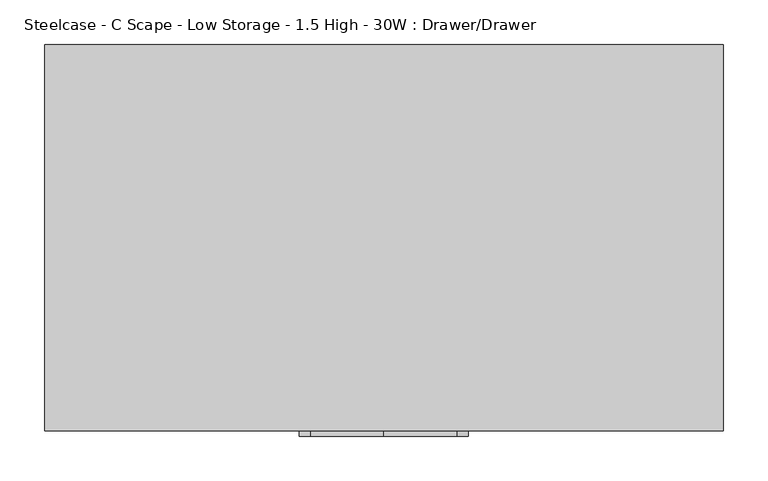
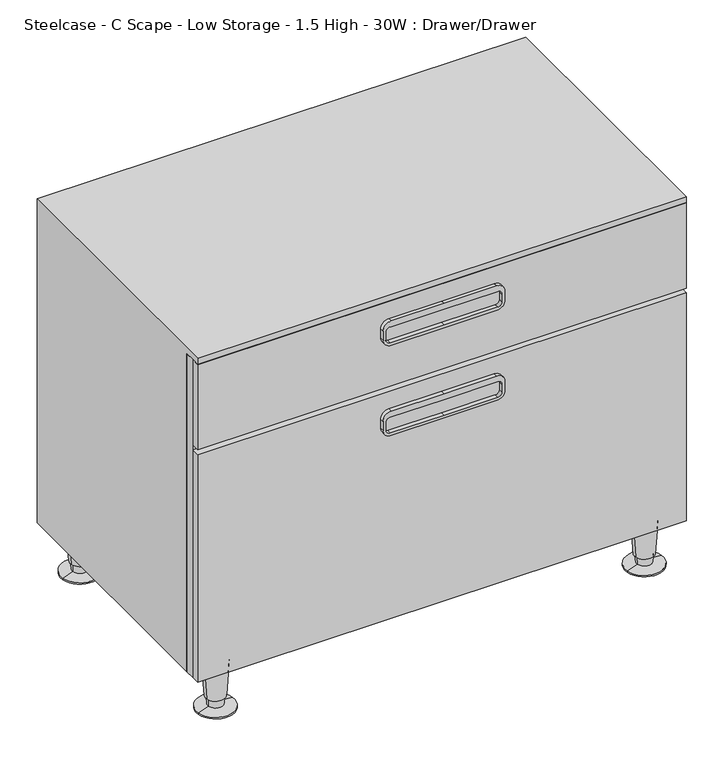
"""IFC4 building model written with IfcOpenShell, lengths in millimetres: furniture geometry, Steelcase - C Scape - Low Storage - 1.5 High - 30W : Drawer/Drawer."""

from ifc_helpers import new_model, si_unit, point, frame, frame_2d, origin, place, context, project, spatial, polyline, circle_curve, trimmed, segment, composite_curve, outline, extrude, faceted_brep, source, transform, mapped, element, save
from ifc_brep_helpers import plane_surface, cylinder_surface, revolved_surface, advanced_brep


def steelcase_c_scape_low_storage_1_5_high_30w_drawer_drawer_79f90267(model_context):
    return source(origin(), model_context, "Body", "SolidModel", [
        extrude(outline(polyline([(599.4499291, 0.0), (76.2, 0.0), (76.2, 760.73), (599.4499291, 760.73), (599.4499291, 320.0585382), (599.4499291, 0.0)]), holes=[polyline([(458.7875121, 21.3382324), (582.9399291, 21.3382324), (582.9399291, 738.7617285), (458.7875121, 738.7617285), (458.7875121, 21.3382324)]), polyline([(436.841904, 21.3256814), (436.841904, 738.7617285), (92.7100024, 738.7617285), (92.7100024, 21.3256814), (436.841904, 21.3256814)])]), frame((0.0, -419.3540543, 0.0), z_axis=(0.0, 1.0, 0.0), x_axis=(0.0, 0.0, 1.0)), (0.0, 0.0, 1.0), 14.9860039),
        extrude(outline(composite_curve([segment(trimmed(circle_curve(frame_2d((558.1749291, 297.8147442)), 12.7), [point((570.8749291, 297.8147442))], [point((558.1749291, 285.1147442))], False, "CARTESIAN"), True, "CONTINUOUS"), segment(polyline([(558.1749291, 285.1147442), (543.5699582, 285.1147442)]), True, "CONTINUOUS"), segment(trimmed(circle_curve(frame_2d((543.5699582, 297.8147442)), 12.7), [point((543.5699582, 285.1147442))], [point((530.8699582, 297.8147442))], False, "CARTESIAN"), True, "CONTINUOUS"), segment(polyline([(530.8699582, 297.8147442), (530.8699582, 380.0475), (530.8699582, 462.2802558)]), True, "CONTINUOUS"), segment(trimmed(circle_curve(frame_2d((543.5699582, 462.2802558)), 12.7), [point((530.8699582, 462.2802558))], [point((543.5699582, 474.9802558))], False, "CARTESIAN"), True, "CONTINUOUS"), segment(polyline([(543.5699582, 474.9802558), (558.1749291, 474.9802558)]), True, "CONTINUOUS"), segment(trimmed(circle_curve(frame_2d((558.1749291, 462.2802558)), 12.7), [point((558.1749291, 474.9802558))], [point((570.8749291, 462.2802558))], False, "CARTESIAN"), True, "CONTINUOUS"), segment(polyline([(570.8749291, 462.2802558), (570.8749291, 380.0475), (570.8749291, 297.8147442)]), True, "CONTINUOUS")], self_intersect=False), holes=[composite_curve([segment(trimmed(circle_curve(frame_2d((554.7459476, 296.2923565)), 6.35), [point((554.7459476, 289.9423565))], [point((561.0959476, 296.2923565))], True, "CARTESIAN"), True, "CONTINUOUS"), segment(polyline([(561.0959476, 296.2923565), (561.0959476, 380.0475), (561.0959476, 463.8026435)]), True, "CONTINUOUS"), segment(trimmed(circle_curve(frame_2d((554.7459476, 463.8026435)), 6.35), [point((561.0959476, 463.8026435))], [point((554.7459476, 470.1526435))], True, "CARTESIAN"), True, "CONTINUOUS"), segment(polyline([(554.7459476, 470.1526435), (542.0459354, 470.1526435)]), True, "CONTINUOUS"), segment(trimmed(circle_curve(frame_2d((542.0459354, 463.8026435)), 6.35), [point((542.0459354, 470.1526435))], [point((535.6959354, 463.8026435))], True, "CARTESIAN"), True, "CONTINUOUS"), segment(polyline([(535.6959354, 463.8026435), (535.6959354, 380.0475), (535.6959354, 296.2923565)]), True, "CONTINUOUS"), segment(trimmed(circle_curve(frame_2d((542.0459354, 296.2923565)), 6.35), [point((535.6959354, 296.2923565))], [point((542.0459354, 289.9423565))], True, "CARTESIAN"), True, "CONTINUOUS"), segment(polyline([(542.0459354, 289.9423565), (554.7459476, 289.9423565)]), True, "CONTINUOUS")], self_intersect=False)]), frame((0.0, -439.42, 0.0), z_axis=(0.0, 1.0, 0.0), x_axis=(0.0, 0.0, 1.0)), (0.0, 0.0, 1.0), 6.35),
        extrude(outline(composite_curve([segment(trimmed(circle_curve(frame_2d((409.5749879, 297.8147442)), 12.7), [point((422.2749879, 297.8147442))], [point((409.5749879, 285.1147442))], False, "CARTESIAN"), True, "CONTINUOUS"), segment(polyline([(409.5749879, 285.1147442), (394.970017, 285.1147442)]), True, "CONTINUOUS"), segment(trimmed(circle_curve(frame_2d((394.970017, 297.8147442)), 12.7), [point((394.970017, 285.1147442))], [point((382.270017, 297.8147442))], False, "CARTESIAN"), True, "CONTINUOUS"), segment(polyline([(382.270017, 297.8147442), (382.270017, 380.0475), (382.270017, 462.2802558)]), True, "CONTINUOUS"), segment(trimmed(circle_curve(frame_2d((394.970017, 462.2802558)), 12.7), [point((382.270017, 462.2802558))], [point((394.970017, 474.9802558))], False, "CARTESIAN"), True, "CONTINUOUS"), segment(polyline([(394.970017, 474.9802558), (409.5749879, 474.9802558)]), True, "CONTINUOUS"), segment(trimmed(circle_curve(frame_2d((409.5749879, 462.2802558)), 12.7), [point((409.5749879, 474.9802558))], [point((422.2749879, 462.2802558))], False, "CARTESIAN"), True, "CONTINUOUS"), segment(polyline([(422.2749879, 462.2802558), (422.2749879, 380.0475), (422.2749879, 297.8147442)]), True, "CONTINUOUS")], self_intersect=False), holes=[composite_curve([segment(trimmed(circle_curve(frame_2d((406.1460063, 296.2923565)), 6.35), [point((406.1460063, 289.9423565))], [point((412.4960063, 296.2923565))], True, "CARTESIAN"), True, "CONTINUOUS"), segment(polyline([(412.4960063, 296.2923565), (412.4960063, 380.0475), (412.4960063, 463.8026435)]), True, "CONTINUOUS"), segment(trimmed(circle_curve(frame_2d((406.1460063, 463.8026435)), 6.35), [point((412.4960063, 463.8026435))], [point((406.1460063, 470.1526435))], True, "CARTESIAN"), True, "CONTINUOUS"), segment(polyline([(406.1460063, 470.1526435), (393.4459942, 470.1526435)]), True, "CONTINUOUS"), segment(trimmed(circle_curve(frame_2d((393.4459942, 463.8026435)), 6.35), [point((393.4459942, 470.1526435))], [point((387.0959942, 463.8026435))], True, "CARTESIAN"), True, "CONTINUOUS"), segment(polyline([(387.0959942, 463.8026435), (387.0959942, 380.0475), (387.0959942, 296.2923565)]), True, "CONTINUOUS"), segment(trimmed(circle_curve(frame_2d((393.4459942, 296.2923565)), 6.35), [point((387.0959942, 296.2923565))], [point((393.4459942, 289.9423565))], True, "CARTESIAN"), True, "CONTINUOUS"), segment(polyline([(393.4459942, 289.9423565), (406.1460063, 289.9423565)]), True, "CONTINUOUS")], self_intersect=False)]), frame((0.0, -439.42, 0.0), z_axis=(0.0, 1.0, 0.0), x_axis=(0.0, 0.0, 1.0)), (0.0, 0.0, 1.0), 6.35),
        advanced_brep(
        [(65.5422821, -397.1702762, 76.2), (27.8805432, -402.9325174, 76.2), (46.7114126, -400.0513968, 76.2), (61.5919341, -397.774679, 19.05), (31.8308912, -402.3281146, 19.05), (59.1623471, -398.1464055, 19.05), (34.2604781, -401.9563882, 19.05), (58.4735776, -398.2517871, 5.7545598), (34.9492476, -401.8510065, 5.7545598), (75.8224611, -395.5974102, 2.5119506), (17.6003641, -404.5053834, 2.5119506), (75.8224611, -395.5974102, 0.0), (17.6003641, -404.5053834, 0.0), (46.7114126, -400.0513968, 0.0)],
        [
            (0, 1, circle_curve(frame((46.7114126, -400.0513968, 76.2), z_axis=(0.0, 0.0, 1.0), x_axis=(0.0, -1.0, 0.0)), 19.05)),
            (1, 2),
            (2, 0),
            (1, 0, circle_curve(frame((46.7114126, -400.0513968, 76.2), z_axis=(0.0, 0.0, 1.0), x_axis=(0.0, -1.0, 0.0)), 19.05)),
            (3, 4, circle_curve(frame((46.7114126, -400.0513968, 19.05), z_axis=(0.0, 0.0, 1.0), x_axis=(0.0, -1.0, 0.0)), 15.0536827)),
            (4, 1),
            (0, 3),
            (4, 3, circle_curve(frame((46.7114126, -400.0513968, 19.05), z_axis=(0.0, 0.0, 1.0), x_axis=(0.0, -1.0, 0.0)), 15.0536827)),
            (5, 6, circle_curve(frame((46.7114126, -400.0513968, 19.05), z_axis=(0.0, 0.0, 1.0), x_axis=(0.0, -1.0, 0.0)), 12.5958232)),
            (6, 4),
            (3, 5),
            (6, 5, circle_curve(frame((46.7114126, -400.0513968, 19.05), z_axis=(0.0, 0.0, 1.0), x_axis=(0.0, -1.0, 0.0)), 12.5958232)),
            (7, 8, circle_curve(frame((46.7114126, -400.0513968, 5.7545598), z_axis=(0.0, 0.0, 1.0), x_axis=(0.0, -1.0, 0.0)), 11.8990387)),
            (8, 6),
            (5, 7),
            (8, 7, circle_curve(frame((46.7114126, -400.0513968, 5.7545598), z_axis=(0.0, 0.0, 1.0), x_axis=(0.0, -1.0, 0.0)), 11.8990387)),
            (9, 10, circle_curve(frame((46.7114126, -400.0513968, 2.5119506), z_axis=(0.0, 0.0, 1.0), x_axis=(0.0, -1.0, 0.0)), 29.4498071)),
            (10, 8),
            (7, 9),
            (10, 9, circle_curve(frame((46.7114126, -400.0513968, 2.5119506), z_axis=(0.0, 0.0, 1.0), x_axis=(0.0, -1.0, 0.0)), 29.4498071)),
            (11, 12, circle_curve(frame((46.7114126, -400.0513968, 0.0), z_axis=(0.0, 0.0, 1.0), x_axis=(0.0, -1.0, 0.0)), 29.4498071)),
            (12, 10),
            (9, 11),
            (12, 11, circle_curve(frame((46.7114126, -400.0513968, 0.0), z_axis=(0.0, 0.0, 1.0), x_axis=(0.0, -1.0, 0.0)), 29.4498071)),
            (13, 12),
            (11, 13),
        ],
        [
            plane_surface(frame((46.7114126, -400.0513968, 76.2), z_axis=(0.0, 0.0, 1.0), x_axis=(0.0, -1.0, 0.0))),
            revolved_surface(polyline([(46.7114126, -419.1013968, 76.2), (46.7114126, -415.1050795, 19.05)]), (46.7114126, -400.0513968, 25.4), (0.0, 0.0, -1.0)),
            plane_surface(frame((46.7114126, -400.0513968, 19.05), z_axis=(0.0, 0.0, -1.0), x_axis=(0.0, -1.0, 0.0))),
            revolved_surface(polyline([(46.7114126, -412.64722, 19.05), (46.7114126, -411.9504355, 5.7545598)]), (46.7114126, -400.0513968, 25.4), (0.0, 0.0, -1.0)),
            revolved_surface(polyline([(46.7114126, -411.9504355, 5.7545598), (46.7114126, -429.5012039, 2.5119506)]), (46.7114126, -400.0513968, 25.4), (0.0, 0.0, -1.0)),
            cylinder_surface(frame((46.7114126, -400.0513968, 25.4), z_axis=(0.0, 0.0, -1.0), x_axis=(0.0, -1.0, 0.0)), 29.4498071),
            plane_surface(frame((46.7114126, -400.0513968, 0.0), z_axis=(0.0, 0.0, -1.0), x_axis=(0.0, -1.0, 0.0))),
        ],
        [
            (0, [[1, 2, 3]]),
            (0, [[4, -3, -2]]),
            (1, [[5, 6, -1, 7]]),
            (1, [[8, -7, -4, -6]]),
            (2, [[9, 10, -5, 11]]),
            (2, [[12, -11, -8, -10]]),
            (3, [[13, 14, -9, 15]]),
            (3, [[16, -15, -12, -14]]),
            (4, [[17, 18, -13, 19]]),
            (4, [[20, -19, -16, -18]]),
            (5, [[21, 22, -17, 23]]),
            (5, [[24, -23, -20, -22]]),
            (6, [[25, -21, 26]]),
            (6, [[-26, -24, -25]]),
        ],
    ),
        advanced_brep(
        [(733.4598695, -397.1702762, 76.2), (695.7981305, -402.9325174, 76.2), (714.629, -400.0513968, 76.2), (729.5095214, -397.774679, 19.05), (699.7484786, -402.3281146, 19.05), (727.0799345, -398.1464055, 19.05), (702.1780655, -401.9563882, 19.05), (726.391165, -398.2517871, 5.7545598), (702.866835, -401.8510065, 5.7545598), (743.7400485, -395.5974102, 2.5119506), (685.5179515, -404.5053834, 2.5119506), (743.7400485, -395.5974102, 0.0), (685.5179515, -404.5053834, 0.0), (714.629, -400.0513968, 0.0)],
        [
            (0, 1, circle_curve(frame((714.629, -400.0513968, 76.2), z_axis=(0.0, 0.0, 1.0), x_axis=(0.0, -1.0, 0.0)), 19.05)),
            (1, 2),
            (2, 0),
            (1, 0, circle_curve(frame((714.629, -400.0513968, 76.2), z_axis=(0.0, 0.0, 1.0), x_axis=(0.0, -1.0, 0.0)), 19.05)),
            (3, 4, circle_curve(frame((714.629, -400.0513968, 19.05), z_axis=(0.0, 0.0, 1.0), x_axis=(0.0, -1.0, 0.0)), 15.0536827)),
            (4, 1),
            (0, 3),
            (4, 3, circle_curve(frame((714.629, -400.0513968, 19.05), z_axis=(0.0, 0.0, 1.0), x_axis=(0.0, -1.0, 0.0)), 15.0536827)),
            (5, 6, circle_curve(frame((714.629, -400.0513968, 19.05), z_axis=(0.0, 0.0, 1.0), x_axis=(0.0, -1.0, 0.0)), 12.5958232)),
            (6, 4),
            (3, 5),
            (6, 5, circle_curve(frame((714.629, -400.0513968, 19.05), z_axis=(0.0, 0.0, 1.0), x_axis=(0.0, -1.0, 0.0)), 12.5958232)),
            (7, 8, circle_curve(frame((714.629, -400.0513968, 5.7545598), z_axis=(0.0, 0.0, 1.0), x_axis=(0.0, -1.0, 0.0)), 11.8990387)),
            (8, 6),
            (5, 7),
            (8, 7, circle_curve(frame((714.629, -400.0513968, 5.7545598), z_axis=(0.0, 0.0, 1.0), x_axis=(0.0, -1.0, 0.0)), 11.8990387)),
            (9, 10, circle_curve(frame((714.629, -400.0513968, 2.5119506), z_axis=(0.0, 0.0, 1.0), x_axis=(0.0, -1.0, 0.0)), 29.4498071)),
            (10, 8),
            (7, 9),
            (10, 9, circle_curve(frame((714.629, -400.0513968, 2.5119506), z_axis=(0.0, 0.0, 1.0), x_axis=(0.0, -1.0, 0.0)), 29.4498071)),
            (11, 12, circle_curve(frame((714.629, -400.0513968, 0.0), z_axis=(0.0, 0.0, 1.0), x_axis=(0.0, -1.0, 0.0)), 29.4498071)),
            (12, 10),
            (9, 11),
            (12, 11, circle_curve(frame((714.629, -400.0513968, 0.0), z_axis=(0.0, 0.0, 1.0), x_axis=(0.0, -1.0, 0.0)), 29.4498071)),
            (13, 12),
            (11, 13),
        ],
        [
            plane_surface(frame((714.629, -400.0513968, 76.2), z_axis=(0.0, 0.0, 1.0), x_axis=(0.0, -1.0, 0.0))),
            revolved_surface(polyline([(714.629, -419.1013968, 76.2), (714.629, -415.1050795, 19.05)]), (714.629, -400.0513968, 25.4), (0.0, 0.0, -1.0)),
            plane_surface(frame((714.629, -400.0513968, 19.05), z_axis=(0.0, 0.0, -1.0), x_axis=(0.0, -1.0, 0.0))),
            revolved_surface(polyline([(714.629, -412.64722, 19.05), (714.629, -411.9504355, 5.7545598)]), (714.629, -400.0513968, 25.4), (0.0, 0.0, -1.0)),
            revolved_surface(polyline([(714.629, -411.9504355, 5.7545598), (714.629, -429.5012039, 2.5119506)]), (714.629, -400.0513968, 25.4), (0.0, 0.0, -1.0)),
            cylinder_surface(frame((714.629, -400.0513968, 25.4), z_axis=(0.0, 0.0, -1.0), x_axis=(0.0, -1.0, 0.0)), 29.4498071),
            plane_surface(frame((714.629, -400.0513968, 0.0), z_axis=(0.0, 0.0, -1.0), x_axis=(0.0, -1.0, 0.0))),
        ],
        [
            (0, [[1, 2, 3]]),
            (0, [[4, -3, -2]]),
            (1, [[5, 6, -1, 7]]),
            (1, [[8, -7, -4, -6]]),
            (2, [[9, 10, -5, 11]]),
            (2, [[12, -11, -8, -10]]),
            (3, [[13, 14, -9, 15]]),
            (3, [[16, -15, -12, -14]]),
            (4, [[17, 18, -13, 19]]),
            (4, [[20, -19, -16, -18]]),
            (5, [[21, 22, -17, 23]]),
            (5, [[24, -23, -20, -22]]),
            (6, [[25, -21, 26]]),
            (6, [[-26, -24, -25]]),
        ],
    ),
        advanced_brep(
        [(733.4598695, -31.5218435, 76.2), (695.7981305, -37.2840847, 76.2), (714.629, -34.4029641, 76.2), (729.5095214, -32.1262463, 19.05), (699.7484786, -36.6796819, 19.05), (727.0799345, -32.4979728, 19.05), (702.1780655, -36.3079555, 19.05), (726.391165, -32.6033544, 5.7545598), (702.866835, -36.2025738, 5.7545598), (743.7400485, -29.9489775, 2.5119506), (685.5179515, -38.8569507, 2.5119506), (743.7400485, -29.9489775, 0.0), (685.5179515, -38.8569507, 0.0), (714.629, -34.4029641, 0.0)],
        [
            (0, 1, circle_curve(frame((714.629, -34.4029641, 76.2), z_axis=(0.0, 0.0, 1.0), x_axis=(0.0, -1.0, 0.0)), 19.05)),
            (1, 2),
            (2, 0),
            (1, 0, circle_curve(frame((714.629, -34.4029641, 76.2), z_axis=(0.0, 0.0, 1.0), x_axis=(0.0, -1.0, 0.0)), 19.05)),
            (3, 4, circle_curve(frame((714.629, -34.4029641, 19.05), z_axis=(0.0, 0.0, 1.0), x_axis=(0.0, -1.0, 0.0)), 15.0536827)),
            (4, 1),
            (0, 3),
            (4, 3, circle_curve(frame((714.629, -34.4029641, 19.05), z_axis=(0.0, 0.0, 1.0), x_axis=(0.0, -1.0, 0.0)), 15.0536827)),
            (5, 6, circle_curve(frame((714.629, -34.4029641, 19.05), z_axis=(0.0, 0.0, 1.0), x_axis=(0.0, -1.0, 0.0)), 12.5958232)),
            (6, 4),
            (3, 5),
            (6, 5, circle_curve(frame((714.629, -34.4029641, 19.05), z_axis=(0.0, 0.0, 1.0), x_axis=(0.0, -1.0, 0.0)), 12.5958232)),
            (7, 8, circle_curve(frame((714.629, -34.4029641, 5.7545598), z_axis=(0.0, 0.0, 1.0), x_axis=(0.0, -1.0, 0.0)), 11.8990387)),
            (8, 6),
            (5, 7),
            (8, 7, circle_curve(frame((714.629, -34.4029641, 5.7545598), z_axis=(0.0, 0.0, 1.0), x_axis=(0.0, -1.0, 0.0)), 11.8990387)),
            (9, 10, circle_curve(frame((714.629, -34.4029641, 2.5119506), z_axis=(0.0, 0.0, 1.0), x_axis=(0.0, -1.0, 0.0)), 29.4498071)),
            (10, 8),
            (7, 9),
            (10, 9, circle_curve(frame((714.629, -34.4029641, 2.5119506), z_axis=(0.0, 0.0, 1.0), x_axis=(0.0, -1.0, 0.0)), 29.4498071)),
            (11, 12, circle_curve(frame((714.629, -34.4029641, 0.0), z_axis=(0.0, 0.0, 1.0), x_axis=(0.0, -1.0, 0.0)), 29.4498071)),
            (12, 10),
            (9, 11),
            (12, 11, circle_curve(frame((714.629, -34.4029641, 0.0), z_axis=(0.0, 0.0, 1.0), x_axis=(0.0, -1.0, 0.0)), 29.4498071)),
            (13, 12),
            (11, 13),
        ],
        [
            plane_surface(frame((714.629, -34.4029641, 76.2), z_axis=(0.0, 0.0, 1.0), x_axis=(0.0, -1.0, 0.0))),
            revolved_surface(polyline([(714.629, -53.4529641, 76.2), (714.629, -49.4566468, 19.05)]), (714.629, -34.4029641, 25.4), (0.0, 0.0, -1.0)),
            plane_surface(frame((714.629, -34.4029641, 19.05), z_axis=(0.0, 0.0, -1.0), x_axis=(0.0, -1.0, 0.0))),
            revolved_surface(polyline([(714.629, -46.9987873, 19.05), (714.629, -46.3020028, 5.7545598)]), (714.629, -34.4029641, 25.4), (0.0, 0.0, -1.0)),
            revolved_surface(polyline([(714.629, -46.3020028, 5.7545598), (714.629, -63.8527712, 2.5119506)]), (714.629, -34.4029641, 25.4), (0.0, 0.0, -1.0)),
            cylinder_surface(frame((714.629, -34.4029641, 25.4), z_axis=(0.0, 0.0, -1.0), x_axis=(0.0, -1.0, 0.0)), 29.4498071),
            plane_surface(frame((714.629, -34.4029641, 0.0), z_axis=(0.0, 0.0, -1.0), x_axis=(0.0, -1.0, 0.0))),
        ],
        [
            (0, [[1, 2, 3]]),
            (0, [[4, -3, -2]]),
            (1, [[5, 6, -1, 7]]),
            (1, [[8, -7, -4, -6]]),
            (2, [[9, 10, -5, 11]]),
            (2, [[12, -11, -8, -10]]),
            (3, [[13, 14, -9, 15]]),
            (3, [[16, -15, -12, -14]]),
            (4, [[17, 18, -13, 19]]),
            (4, [[20, -19, -16, -18]]),
            (5, [[21, 22, -17, 23]]),
            (5, [[24, -23, -20, -22]]),
            (6, [[25, -21, 26]]),
            (6, [[-26, -24, -25]]),
        ],
    ),
        advanced_brep(
        [(65.5422821, -31.5218435, 76.2), (27.8805432, -37.2840847, 76.2), (46.7114126, -34.4029641, 76.2), (61.5919341, -32.1262463, 19.05), (31.8308912, -36.6796819, 19.05), (59.1623471, -32.4979728, 19.05), (34.2604781, -36.3079555, 19.05), (58.4735776, -32.6033544, 5.7545598), (34.9492476, -36.2025738, 5.7545598), (75.8224611, -29.9489775, 2.5119506), (17.6003641, -38.8569507, 2.5119506), (75.8224611, -29.9489775, 0.0), (17.6003641, -38.8569507, 0.0), (46.7114126, -34.4029641, 0.0)],
        [
            (0, 1, circle_curve(frame((46.7114126, -34.4029641, 76.2), z_axis=(0.0, 0.0, 1.0), x_axis=(0.0, -1.0, 0.0)), 19.05)),
            (1, 2),
            (2, 0),
            (1, 0, circle_curve(frame((46.7114126, -34.4029641, 76.2), z_axis=(0.0, 0.0, 1.0), x_axis=(0.0, -1.0, 0.0)), 19.05)),
            (3, 4, circle_curve(frame((46.7114126, -34.4029641, 19.05), z_axis=(0.0, 0.0, 1.0), x_axis=(0.0, -1.0, 0.0)), 15.0536827)),
            (4, 1),
            (0, 3),
            (4, 3, circle_curve(frame((46.7114126, -34.4029641, 19.05), z_axis=(0.0, 0.0, 1.0), x_axis=(0.0, -1.0, 0.0)), 15.0536827)),
            (5, 6, circle_curve(frame((46.7114126, -34.4029641, 19.05), z_axis=(0.0, 0.0, 1.0), x_axis=(0.0, -1.0, 0.0)), 12.5958232)),
            (6, 4),
            (3, 5),
            (6, 5, circle_curve(frame((46.7114126, -34.4029641, 19.05), z_axis=(0.0, 0.0, 1.0), x_axis=(0.0, -1.0, 0.0)), 12.5958232)),
            (7, 8, circle_curve(frame((46.7114126, -34.4029641, 5.7545598), z_axis=(0.0, 0.0, 1.0), x_axis=(0.0, -1.0, 0.0)), 11.8990387)),
            (8, 6),
            (5, 7),
            (8, 7, circle_curve(frame((46.7114126, -34.4029641, 5.7545598), z_axis=(0.0, 0.0, 1.0), x_axis=(0.0, -1.0, 0.0)), 11.8990387)),
            (9, 10, circle_curve(frame((46.7114126, -34.4029641, 2.5119506), z_axis=(0.0, 0.0, 1.0), x_axis=(0.0, -1.0, 0.0)), 29.4498071)),
            (10, 8),
            (7, 9),
            (10, 9, circle_curve(frame((46.7114126, -34.4029641, 2.5119506), z_axis=(0.0, 0.0, 1.0), x_axis=(0.0, -1.0, 0.0)), 29.4498071)),
            (11, 12, circle_curve(frame((46.7114126, -34.4029641, 0.0), z_axis=(0.0, 0.0, 1.0), x_axis=(0.0, -1.0, 0.0)), 29.4498071)),
            (12, 10),
            (9, 11),
            (12, 11, circle_curve(frame((46.7114126, -34.4029641, 0.0), z_axis=(0.0, 0.0, 1.0), x_axis=(0.0, -1.0, 0.0)), 29.4498071)),
            (13, 12),
            (11, 13),
        ],
        [
            plane_surface(frame((46.7114126, -34.4029641, 76.2), z_axis=(0.0, 0.0, 1.0), x_axis=(0.0, -1.0, 0.0))),
            revolved_surface(polyline([(46.7114126, -53.4529641, 76.2), (46.7114126, -49.4566468, 19.05)]), (46.7114126, -34.4029641, 25.4), (0.0, 0.0, -1.0)),
            plane_surface(frame((46.7114126, -34.4029641, 19.05), z_axis=(0.0, 0.0, -1.0), x_axis=(0.0, -1.0, 0.0))),
            revolved_surface(polyline([(46.7114126, -46.9987873, 19.05), (46.7114126, -46.3020028, 5.7545598)]), (46.7114126, -34.4029641, 25.4), (0.0, 0.0, -1.0)),
            revolved_surface(polyline([(46.7114126, -46.3020028, 5.7545598), (46.7114126, -63.8527712, 2.5119506)]), (46.7114126, -34.4029641, 25.4), (0.0, 0.0, -1.0)),
            cylinder_surface(frame((46.7114126, -34.4029641, 25.4), z_axis=(0.0, 0.0, -1.0), x_axis=(0.0, -1.0, 0.0)), 29.4498071),
            plane_surface(frame((46.7114126, -34.4029641, 0.0), z_axis=(0.0, 0.0, -1.0), x_axis=(0.0, -1.0, 0.0))),
        ],
        [
            (0, [[1, 2, 3]]),
            (0, [[4, -3, -2]]),
            (1, [[5, 6, -1, 7]]),
            (1, [[8, -7, -4, -6]]),
            (2, [[9, 10, -5, 11]]),
            (2, [[12, -11, -8, -10]]),
            (3, [[13, 14, -9, 15]]),
            (3, [[16, -15, -12, -14]]),
            (4, [[17, 18, -13, 19]]),
            (4, [[20, -19, -16, -18]]),
            (5, [[21, 22, -17, 23]]),
            (5, [[24, -23, -20, -22]]),
            (6, [[25, -21, 26]]),
            (6, [[-26, -24, -25]]),
        ],
    ),
        extrude(outline(polyline([(760.73, -419.3540543), (760.73, -433.07), (0.0, -433.07), (0.0, -419.3540543), (760.73, -419.3540543)])), frame((0.0, 0.0, 458.7875121), z_axis=(0.0, 0.0, 1.0), x_axis=(1.0, 0.0, 0.0)), (0.0, 0.0, 1.0), 140.662417),
        faceted_brep([(0.0, 0.0, 609.6), (760.73, 0.0, 609.6), (760.73, 0.0, 76.2), (0.0, 0.0, 76.2), (0.0, -433.07, 609.6), (0.0, -404.3680504, 76.2), (0.0, -404.3680504, 599.4499291), (0.0, -433.07, 599.4499291), (21.3382324, -404.3680504, 599.4499291), (760.73, -404.3680504, 76.2), (760.73, -404.3680504, 599.4499291), (738.7617285, -404.3680504, 599.4499291), (738.7617285, -404.3680504, 458.7875121), (21.3382324, -404.3680504, 458.7875121), (738.7617285, -404.3680504, 450.8499879), (738.7617285, -404.3680504, 92.7100024), (21.3382324, -404.3680504, 92.7100024), (21.3382324, -404.3680504, 450.8499879), (21.3382324, -9.525, 599.4499291), (21.3382324, -9.525, 458.7875121), (21.3382324, -9.525, 92.7100024), (21.3382324, -9.525, 450.8499879), (738.7617285, -9.525, 599.4499291), (738.7617285, -9.525, 458.7875121), (738.7617285, -9.525, 92.7100024), (738.7617285, -9.525, 450.8499879), (760.73, -433.07, 609.6), (760.73, -433.07, 599.4499291)], [[[0, 1, 2, 3]], [[4, 0, 3, 5, 6, 7]], [[8, 6, 5, 9, 10, 11, 12, 13], [14, 15, 16, 17]], [[18, 8, 13, 19]], [[17, 16, 20, 21]], [[22, 18, 19, 23]], [[21, 20, 24, 25]], [[11, 22, 23, 12]], [[25, 24, 15, 14]], [[2, 1, 26, 27, 10, 9]], [[1, 0, 4, 26]], [[27, 7, 6, 8, 18, 22, 11, 10]], [[26, 4, 7, 27]], [[13, 12, 23, 19]], [[14, 17, 21, 25]], [[16, 15, 24, 20]], [[2, 9, 5, 3]]]),
        extrude(outline(polyline([(760.73, -419.3540543), (760.73, -433.07), (0.0, -433.07), (0.0, -419.3540543), (760.73, -419.3540543)])), frame((0.0, 0.0, 76.2), z_axis=(0.0, 0.0, 1.0), x_axis=(1.0, 0.0, 0.0)), (0.0, 0.0, 1.0), 374.6499879),
    ])


if __name__ == "__main__":
    model = new_model("IFC4")
    model_context = context("Model", 3, world=origin())
    ifc_project = project(units=[si_unit("LENGTHUNIT", "METRE", prefix="MILLI")], contexts=[model_context])
    site = spatial("IfcSite", under=ifc_project)
    building = spatial("IfcBuilding", under=site)
    placement = place(None, origin())
    steelcase_c_scape_low_storage_1_5_high_30w_drawer_drawer_shape = steelcase_c_scape_low_storage_1_5_high_30w_drawer_drawer_79f90267(model_context)
    element("IfcFurniture", 1, ObjectType="Steelcase - C Scape - Low Storage - 1.5 High - 30W : Drawer/Drawer", at=placement, inside=building, context=model_context, shape_type="MappedRepresentation", body=[
        mapped(steelcase_c_scape_low_storage_1_5_high_30w_drawer_drawer_shape, transform((0.0, 0.0, 0.0), x_axis=(1.0, 0.0, 0.0), y_axis=(0.0, 1.0, 0.0), z_axis=(0.0, 0.0, 1.0))),
    ])
    save(model, "model.ifc")
